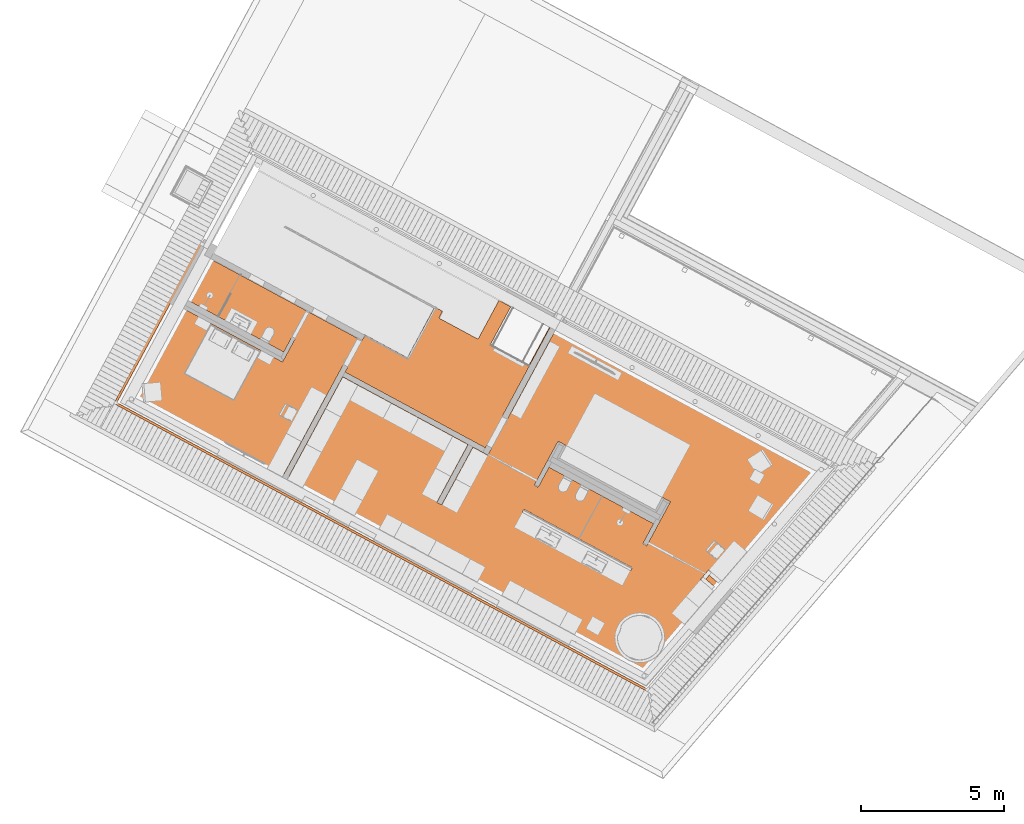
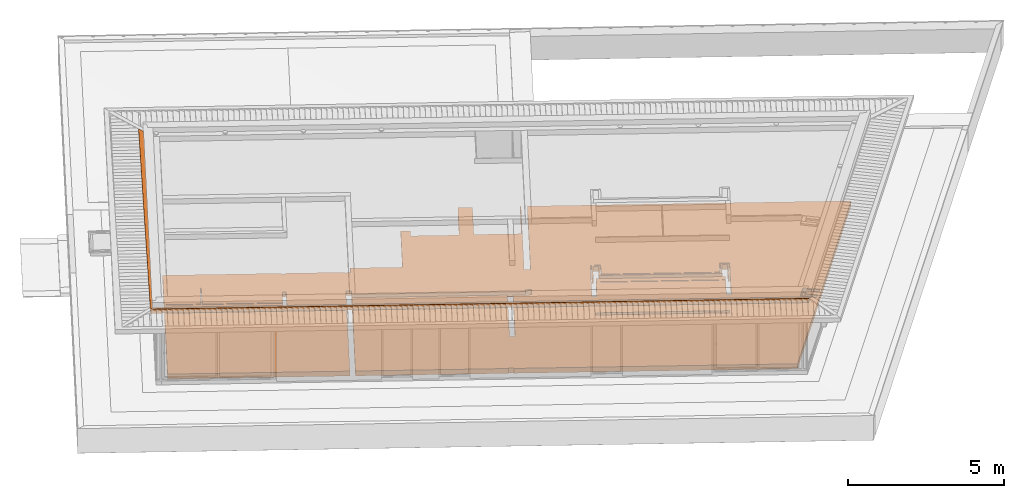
# One storey, part 41 of 48: 2 proxies.
"""IFC2X3 building model written with IfcOpenShell, lengths in metres."""

from ifc_helpers import new_model, entity, si_unit, converted_unit, derived_unit, money_unit, direction, frame, origin_with_axes, place, context, subcontext, project, spatial, faceted_brep, material, material_list, type_object, element, save


model = new_model("IFC2X3")

# Units and contexts
model_context = context("Model", 3, precision=1e-05, world=origin_with_axes(), true_north=direction((0.0, 1.0)))
body_context = subcontext(model_context, "Body", "Model", "MODEL_VIEW")
ifc_project = project(units=[si_unit("LENGTHUNIT", "METRE"), si_unit("AREAUNIT", "SQUARE_METRE"), si_unit("VOLUMEUNIT", "CUBIC_METRE"), converted_unit("PLANEANGLEUNIT", "DEGREE", entity("IfcPlaneAngleMeasure", 0.0174532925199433), si_unit("PLANEANGLEUNIT", "RADIAN"), dimensions=[0, 0, 0, 0, 0, 0, 0]), money_unit("EUR"), converted_unit("TIMEUNIT", "Year", entity("IfcTimeMeasure", 31556926.0), si_unit("TIMEUNIT", "SECOND"), dimensions=[0, 0, 1, 0, 0, 0, 0]), si_unit("MASSUNIT", "GRAM", prefix="KILO"), si_unit("THERMODYNAMICTEMPERATUREUNIT", "DEGREE_CELSIUS"), si_unit("LUMINOUSINTENSITYUNIT", "LUMEN"), si_unit("ENERGYUNIT", "JOULE", prefix="MEGA"), derived_unit("THERMALCONDUCTANCEUNIT", [(si_unit("POWERUNIT", "WATT"), 1), (si_unit("LENGTHUNIT", "METRE"), -1), (si_unit("THERMODYNAMICTEMPERATUREUNIT", "KELVIN"), -1)]), derived_unit("SPECIFICHEATCAPACITYUNIT", [(si_unit("ENERGYUNIT", "JOULE"), 1), (si_unit("MASSUNIT", "GRAM", prefix="KILO"), -1), (si_unit("THERMODYNAMICTEMPERATUREUNIT", "KELVIN"), -1)]), derived_unit("MASSDENSITYUNIT", [(si_unit("MASSUNIT", "GRAM", prefix="KILO"), 1), (si_unit("VOLUMEUNIT", "CUBIC_METRE"), -1)])], contexts=[model_context])

# Site, building, storey
site_placement = place(None, frame((-3.949935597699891, 1.740105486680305, 0.0), z_axis=(0.0, 0.0, 1.0), x_axis=(0.8799804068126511, -0.475009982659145, 0.0)))
site = spatial("IfcSite", under=ifc_project, at=site_placement, Name="Gelände", CompositionType="ELEMENT")
building_placement = place(site_placement, origin_with_axes())
building = spatial("IfcBuilding", under=site, at=building_placement, Name="Gebäude", CompositionType="ELEMENT")
storey_placement = place(building_placement, frame((0.0, 0.0, 4.55), z_axis=(0.0, 0.0, 1.0), x_axis=(1.0, 0.0, 0.0)))
storey = spatial("IfcBuildingStorey", under=building, at=storey_placement, Name="Staffelgeschoss", CompositionType="ELEMENT", Elevation=4.55)

# Proxies
ifc_material_1 = material(Name="ALLGEMEIN - BAUTEIL")
building_element_proxy_type_1 = type_object("IfcBuildingElementProxyType", Name="_SIWH - BO | SG 190", PredefinedType="NOTDEFINED")
proxy_1_placement = place(storey_placement, frame((5.597480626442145, 7.138059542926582, 0.0), z_axis=(0.0, 0.0, 1.0), x_axis=(1.0, 0.0, 0.0)))
element("IfcBuildingElementProxy", 1, at=proxy_1_placement, inside=storey, type_object=building_element_proxy_type_1, material=ifc_material_1, Name="Decke005", context=body_context, shape_type="Brep", body=[
    faceted_brep([(11.57001273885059, 3.519741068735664, 0.0), (11.54000518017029, 3.519741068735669, 0.0), (11.54000518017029, 1.999739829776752, 0.0), (11.57001273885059, 1.999739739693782, 0.0), (11.57001273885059, 3.519741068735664, -0.1899999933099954), (11.54000518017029, 3.519741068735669, -0.1900000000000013), (11.54000518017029, 1.98974111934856, -0.1900000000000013), (11.54000518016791, 1.989739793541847, -0.1500000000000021), (11.54000518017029, 1.999739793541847, -0.1500000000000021), (11.57001273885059, 1.999739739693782, -0.1500000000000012), (11.57001273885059, 1.989739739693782, -0.1500000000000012), (11.57001273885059, 1.989739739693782, 0.0), (11.57001273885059, -0.005020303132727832, 0.0), (11.57001273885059, -0.005020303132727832, -0.1899999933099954), (11.77001273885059, -0.005020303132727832, -0.1899999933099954), (11.77001273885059, 3.519741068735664, -0.1899999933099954), (22.13045410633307, 3.519741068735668, -0.1900000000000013), (20.15761155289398, -5.513072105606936, -0.1900000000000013), (11.0900251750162, -5.51306648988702, -0.1899999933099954), (11.0900251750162, -5.491029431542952, -0.1899999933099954), (10.9150251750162, -5.491029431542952, -0.1899999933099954), (10.9150251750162, -5.51306648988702, -0.1899999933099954), (6.010714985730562, -5.513072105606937, -0.1900000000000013), (6.010714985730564, -1.419998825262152, -0.1900000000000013), (10.99601425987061, -1.419998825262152, -0.1900000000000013), (10.99601425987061, -3.719998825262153, -0.1900000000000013), (11.17101425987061, -3.719998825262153, -0.1900000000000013), (11.17101425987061, -1.419998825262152, -0.1900000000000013), (11.57001273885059, -1.419998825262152, -0.1899999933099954), (11.77001273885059, -1.419998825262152, -0.1899999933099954), (11.77001273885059, -1.140020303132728, -0.1899999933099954), (11.57001273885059, -1.140020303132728, -0.1899999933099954), (11.57001273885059, -1.244998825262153, -0.1899999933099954), (6.010714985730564, -1.244998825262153, -0.1900000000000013), (6.010714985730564, -1.036997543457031, -0.1900000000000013), (5.835714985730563, -1.036997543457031, -0.1900000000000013), (5.835714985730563, -5.513072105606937, -0.1900000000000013), (0.0, -5.513071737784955, -0.1900000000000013), (0.0, -1.969998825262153, -0.1899999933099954), (3.925414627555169, -1.969998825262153, -0.1899999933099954), (3.925414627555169, -1.957498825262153, -0.1899999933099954), (3.925414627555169, -1.036997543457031, -0.1899999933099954), (3.800414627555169, -1.036997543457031, -0.1899999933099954), (3.800414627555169, -1.645022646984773, -0.1899999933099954), (1.214999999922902, -1.645006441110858, -0.1899999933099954), (1.215, -0.7450238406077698, -0.1900000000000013), (1.184999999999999, -0.7450238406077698, -0.1900000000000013), (1.184999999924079, -1.645006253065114, -0.1899999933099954), (1.253638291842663e-06, -1.644998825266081, -0.1899999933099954), (0.0, 0.0, -0.1900000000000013), (3.800414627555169, -3.061704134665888e-08, -0.1899999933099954), (3.800414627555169, -0.02699754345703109, -0.1899999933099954), (3.925414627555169, -0.02699754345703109, -0.1899999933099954), (3.925414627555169, -3.162407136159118e-08, -0.1899999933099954), (5.835714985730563, -4.701390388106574e-08, -0.1900000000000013), (5.835714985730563, -0.02699754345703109, -0.1900000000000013), (6.010714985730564, -0.02699754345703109, -0.1900000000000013), (6.010714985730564, 0.01497615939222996, -0.1899999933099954), (6.010714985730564, 0.2149761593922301, -0.1899999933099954), (5.996714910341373, 0.2149761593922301, -0.1899999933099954), (5.996714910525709, 0.2300000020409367, -0.1900000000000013), (7.682527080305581, 0.229999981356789, -0.1900000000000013), (7.682532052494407, 2.239735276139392, -0.1900000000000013), (7.995010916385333, 2.239734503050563, -0.1900000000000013), (7.995011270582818, 1.969735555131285, -0.1900000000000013), (9.54693234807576, 1.969739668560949, -0.1900000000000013), (9.546936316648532, 3.504742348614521, -0.1900000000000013), (10.01632630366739, 3.50474113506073, -0.1900000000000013), (10.01632630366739, 1.989741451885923, -0.1900000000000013), (13.77193755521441, -2.490958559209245, -0.1900000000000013), (13.77193912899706, -2.610958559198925, -0.1900000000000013), (18.06459063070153, -2.610902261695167, -0.1900000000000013), (18.06458905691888, -2.490902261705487, -0.1900000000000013), (14.02005269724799, -0.3359107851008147, -0.1899999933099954), (14.02005269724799, 0.1640892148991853, -0.1899999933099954), (14.00755269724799, 0.1640892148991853, -0.1899999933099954), (13.70755269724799, 0.1640892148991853, -0.1899999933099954), (13.69505269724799, 0.1640892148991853, -0.1899999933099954), (13.69505269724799, -1.585910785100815, -0.1899999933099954), (13.84505269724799, -1.585910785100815, -0.1899999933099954), (13.84505269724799, -0.7859107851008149, -0.1899999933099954), (17.99505269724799, -0.7859107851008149, -0.1899999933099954), (17.99505269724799, -1.585910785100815, -0.1899999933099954), (18.14505269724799, -1.585910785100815, -0.1899999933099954), (18.14505269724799, 0.1515892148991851, -0.1899999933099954), (18.14505269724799, 0.1640892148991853, -0.1899999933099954), (17.83255269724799, 0.1640892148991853, -0.1899999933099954), (17.82005269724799, 0.1640892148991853, -0.1899999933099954), (17.82005269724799, -0.3359107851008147, -0.1899999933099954), (10.01632630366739, 1.989741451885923, 0.0), (11.54000518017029, 1.989739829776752, 0.0), (11.77001273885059, -0.005020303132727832, 0.0), (10.01632630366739, 3.50474113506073, 0.0), (9.546936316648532, 3.504742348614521, 0.0), (9.54693234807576, 1.969739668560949, 0.0), (7.995011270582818, 1.969735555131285, 0.0), (7.995010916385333, 2.239734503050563, 0.0), (7.682532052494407, 2.239735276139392, 0.0), (7.682527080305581, 0.229999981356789, 0.0), (5.996714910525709, 0.2300000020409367, 0.0), (5.996714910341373, 0.2149761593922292, 0.0), (6.010714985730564, 0.2149761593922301, 0.0), (6.010714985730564, 0.01497615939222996, 0.0), (6.010714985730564, -0.02699754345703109, 0.0), (5.835714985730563, -0.02699754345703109, 0.0), (5.835714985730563, -4.701390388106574e-08, 0.0), (3.925414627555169, -3.162407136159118e-08, 0.0), (3.925414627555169, -0.02699754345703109, 0.0), (3.800414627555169, -0.02699754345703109, 0.0), (3.800414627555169, -3.061704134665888e-08, 0.0), (0.0, 0.0, 0.0), (1.253638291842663e-06, -1.644998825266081, 0.0), (1.184999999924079, -1.645006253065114, 0.0), (1.184999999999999, -0.7450238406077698, 0.0), (1.215, -0.7450238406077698, 0.0), (1.214999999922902, -1.645006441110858, 0.0), (3.800414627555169, -1.645022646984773, 0.0), (3.800414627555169, -1.036997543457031, 0.0), (3.925414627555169, -1.036997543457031, 0.0), (3.925414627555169, -1.957498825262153, 0.0), (3.925414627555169, -1.969998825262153, 0.0), (0.0, -1.969998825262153, 0.0), (0.0, -5.513071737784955, 0.0), (5.835714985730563, -5.513072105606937, 0.0), (5.835714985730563, -1.036997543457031, 0.0), (6.010714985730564, -1.036997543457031, 0.0), (6.010714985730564, -1.244998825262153, 0.0), (11.57001273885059, -1.244998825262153, 0.0), (11.57001273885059, -1.140020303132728, 0.0), (11.77001273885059, -1.140020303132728, 0.0), (11.77001273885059, -1.419998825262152, 0.0), (11.57001273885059, -1.419998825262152, 0.0), (11.17101425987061, -1.419998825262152, 0.0), (11.17101425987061, -3.719998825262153, 0.0), (10.99601425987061, -3.719998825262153, 0.0), (10.99601425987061, -1.419998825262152, 0.0), (6.010714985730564, -1.419998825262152, 0.0), (6.010714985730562, -5.513072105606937, 0.0), (10.9150251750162, -5.51306648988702, 0.0), (10.9150251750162, -5.491029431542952, 0.0), (11.0900251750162, -5.491029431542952, 0.0), (11.0900251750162, -5.51306648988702, 0.0), (20.15761155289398, -5.513072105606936, 0.0), (22.13045410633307, 3.519741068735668, 0.0), (11.77001273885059, 3.519741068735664, 0.0), (18.06459063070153, -2.610902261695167, 0.0), (13.77193912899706, -2.610958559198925, 0.0), (13.77193755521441, -2.490958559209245, 0.0), (18.06458905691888, -2.490902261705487, 0.0), (14.00755269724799, 0.1640892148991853, 0.0), (14.02005269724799, 0.1640892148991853, 0.0), (14.02005269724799, -0.3359107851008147, 0.0), (17.82005269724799, -0.3359107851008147, 0.0), (17.82005269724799, 0.1640892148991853, 0.0), (17.83255269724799, 0.1640892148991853, 0.0), (18.14505269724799, 0.1640892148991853, 0.0), (18.14505269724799, 0.1515892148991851, 0.0), (18.14505269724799, -1.585910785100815, 0.0), (17.99505269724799, -1.585910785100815, 0.0), (17.99505269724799, -0.7859107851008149, 0.0), (13.84505269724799, -0.7859107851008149, 0.0), (13.84505269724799, -1.585910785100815, 0.0), (13.69505269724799, -1.585910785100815, 0.0), (13.69505269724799, 0.1640892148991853, 0.0), (13.70755269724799, 0.1640892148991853, 0.0), (20.35883134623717, -1.709578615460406, 0.0), (20.45062192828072, -1.289308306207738, 0.0), (20.46527647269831, -1.292508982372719, 0.0), (20.98980951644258, -1.407071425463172, 0.0), (20.96207032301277, -1.534077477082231, 0.0), (20.54988878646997, -1.444053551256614, 0.0), (20.51037591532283, -1.624966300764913, 0.0), (20.90116374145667, -1.710317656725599, 0.0), (20.87342454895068, -1.837323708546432, 0.0), (20.35563067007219, -1.724233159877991, 0.0), (20.45062192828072, -1.289308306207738, -0.1800000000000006), (20.35883134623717, -1.709578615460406, -0.1800000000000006), (20.46527647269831, -1.292508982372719, -0.1800000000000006), (20.98980951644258, -1.407071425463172, -0.1800000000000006), (20.96207032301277, -1.534077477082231, -0.1800000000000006), (20.54988878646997, -1.444053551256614, -0.1800000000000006), (20.51037591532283, -1.624966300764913, -0.1800000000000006), (20.90116374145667, -1.710317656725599, -0.1800000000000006), (20.87342454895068, -1.837323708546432, -0.1800000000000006), (20.35563067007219, -1.724233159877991, -0.1800000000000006)], [[[0, 1, 2, 3]], [[1, 0, 4, 5]], [[6, 7, 8, 2, 1, 5]], [[2, 8, 9, 3]], [[3, 9, 10, 11, 12, 13, 4, 0]], [[6, 5, 4, 13, 14, 15, 16, 17, 18, 19, 20, 21, 22, 23, 24, 25, 26, 27, 28, 29, 30, 31, 32, 33, 34, 35, 36, 37, 38, 39, 40, 41, 42, 43, 44, 45, 46, 47, 48, 49, 50, 51, 52, 53, 54, 55, 56, 57, 58, 59, 60, 61, 62, 63, 64, 65, 66, 67, 68], [69, 70, 71, 72], [73, 74, 75, 76, 77, 78, 79, 80, 81, 82, 83, 84, 85, 86, 87, 88]], [[68, 89, 90, 7, 6]], [[8, 7, 10, 9]], [[10, 7, 90, 11]], [[91, 12, 11, 90, 89, 92, 93, 94, 95, 96, 97, 98, 99, 100, 101, 102, 103, 104, 105, 106, 107, 108, 109, 110, 111, 112, 113, 114, 115, 116, 117, 118, 119, 120, 121, 122, 123, 124, 125, 126, 127, 128, 129, 130, 131, 132, 133, 134, 135, 136, 137, 138, 139, 140, 141, 142, 143, 144], [145, 146, 147, 148], [149, 150, 151, 152, 153, 154, 155, 156, 157, 158, 159, 160, 161, 162, 163, 164], [165, 166, 167, 168, 169, 170, 171, 172, 173, 174]], [[13, 12, 91, 14]], [[14, 91, 144, 15]], [[16, 15, 144, 143]], [[16, 143, 142, 17]], [[17, 142, 141, 18]], [[19, 18, 141, 140]], [[20, 19, 140, 139]], [[21, 20, 139, 138]], [[137, 22, 21, 138]], [[22, 137, 136, 23]], [[24, 23, 136, 135]], [[134, 25, 24, 135]], [[26, 25, 134, 133]], [[26, 133, 132, 27]], [[131, 28, 27, 132]], [[131, 130, 29, 28]], [[130, 129, 30, 29]], [[129, 128, 31, 30]], [[128, 127, 32, 31]], [[32, 127, 126, 33]], [[125, 34, 33, 126]], [[124, 35, 34, 125]], [[123, 36, 35, 124]], [[123, 122, 37, 36]], [[38, 37, 122, 121]], [[120, 39, 38, 121]], [[119, 40, 39, 120]], [[119, 118, 41, 40]], [[118, 117, 42, 41]], [[117, 116, 43, 42]], [[44, 43, 116, 115]], [[45, 44, 115, 114]], [[114, 113, 46, 45]], [[113, 112, 47, 46]], [[48, 47, 112, 111]], [[49, 48, 111, 110]], [[50, 49, 110, 109]], [[109, 108, 51, 50]], [[51, 108, 107, 52]], [[106, 53, 52, 107]], [[106, 105, 54, 53]], [[54, 105, 104, 55]], [[104, 103, 56, 55]], [[57, 56, 103, 102]], [[101, 58, 57, 102]], [[100, 59, 58, 101]], [[100, 99, 60, 59]], [[99, 98, 61, 60]], [[98, 97, 62, 61]], [[97, 96, 63, 62]], [[96, 95, 64, 63]], [[95, 94, 65, 64]], [[94, 93, 66, 65]], [[93, 92, 67, 66]], [[92, 89, 68, 67]], [[69, 147, 146, 70]], [[70, 146, 145, 71]], [[71, 145, 148, 72]], [[72, 148, 147, 69]], [[74, 73, 151, 150]], [[75, 74, 150, 149]], [[149, 164, 76, 75]], [[164, 163, 77, 76]], [[163, 162, 78, 77]], [[78, 162, 161, 79]], [[161, 160, 80, 79]], [[160, 159, 81, 80]], [[82, 81, 159, 158]], [[157, 83, 82, 158]], [[156, 84, 83, 157]], [[156, 155, 85, 84]], [[85, 155, 154, 86]], [[87, 86, 154, 153]], [[152, 88, 87, 153]], [[152, 151, 73, 88]], [[175, 166, 165, 176]], [[167, 166, 175, 177]], [[167, 177, 178, 168]], [[178, 179, 169, 168]], [[170, 169, 179, 180]], [[170, 180, 181, 171]], [[182, 172, 171, 181]], [[183, 173, 172, 182]], [[173, 183, 184, 174]], [[184, 176, 165, 174]], [[180, 179, 178, 177, 175, 176, 184, 183, 182, 181]]]),
    faceted_brep([(3.800414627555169, -1.844998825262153, -0.1899999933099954), (3.800414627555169, -1.670022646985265, -0.1899999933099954), (3.800414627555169, -1.670022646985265, 0.0), (3.800414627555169, -1.844998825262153, 0.0), (0.0, -1.844998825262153, -0.1899999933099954), (1.096933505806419e-06, -1.66999882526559, -0.1899999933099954), (1.096933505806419e-06, -1.66999882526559, 0.0), (0.0, -1.844998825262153, 0.0)], [[[0, 1, 2, 3]], [[4, 5, 1, 0]], [[5, 6, 2, 1]], [[3, 2, 6, 7]], [[3, 7, 4, 0]], [[7, 6, 5, 4]]]),
    faceted_brep([(13.84505269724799, -0.7609107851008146, 0.0), (17.99505269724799, -0.7609107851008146, 0.0), (17.99505269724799, -0.5859107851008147, 0.0), (13.84505269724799, -0.5859107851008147, 0.0), (13.84505269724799, -0.7609107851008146, -0.1899999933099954), (17.99505269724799, -0.7609107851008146, -0.1899999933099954), (17.99505269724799, -0.5859107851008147, -0.1899999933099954), (13.84505269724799, -0.5859107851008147, -0.1899999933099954)], [[[0, 1, 2, 3]], [[4, 5, 1, 0]], [[5, 6, 2, 1]], [[3, 2, 6, 7]], [[0, 3, 7, 4]], [[7, 6, 5, 4]]]),
    faceted_brep([(18.07005269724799, -0.4109107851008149, 0.0), (18.07005269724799, -0.5859107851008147, 0.0), (18.12005269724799, -0.5859107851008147, 0.0), (18.12005269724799, 0.1390892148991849, 0.0), (17.84505269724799, 0.1390892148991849, 0.0), (17.84505269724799, -0.3484107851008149, 0.0), (17.84505269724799, -0.3609107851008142, 0.0), (14.00755269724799, -0.3609107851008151, 0.0), (13.99505269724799, -0.3609107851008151, 0.0), (13.99505269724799, 0.1390892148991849, 0.0), (13.72005269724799, 0.1390892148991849, 0.0), (13.72005269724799, -0.5859107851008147, 0.0), (13.77005269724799, -0.5859107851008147, 0.0), (13.77005269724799, -0.4109107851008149, 0.0), (13.77005269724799, 0.08908921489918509, 0.0), (13.94505269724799, 0.08908921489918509, 0.0), (13.94505269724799, -0.4109107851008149, 0.0), (17.89505269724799, -0.4109107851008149, 0.0), (17.89505269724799, 0.08908921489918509, 0.0), (18.07005269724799, 0.08908921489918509, 0.0), (18.07005269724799, -0.4109107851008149, -0.1900000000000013), (18.07005269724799, -0.5859107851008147, -0.1899999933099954), (18.12005269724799, -0.5859107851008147, -0.1899999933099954), (18.12005269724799, 0.1390892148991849, -0.1899999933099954), (17.84505269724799, 0.1390892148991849, -0.1899999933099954), (17.84505269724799, -0.3484107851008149, -0.1899999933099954), (17.84505269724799, -0.3609107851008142, -0.1899999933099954), (14.00755269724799, -0.3609107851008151, -0.1899999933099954), (13.99505269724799, -0.3609107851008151, -0.1899999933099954), (13.99505269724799, 0.1390892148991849, -0.1899999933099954), (13.72005269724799, 0.1390892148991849, -0.1899999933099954), (13.72005269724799, -0.5859107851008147, -0.1899999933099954), (13.77005269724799, -0.5859107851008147, -0.1899999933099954), (13.77005269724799, -0.4109107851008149, -0.1900000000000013), (13.77005269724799, 0.08908921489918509, -0.1900000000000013), (13.94505269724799, 0.08908921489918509, -0.1900000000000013), (13.94505269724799, -0.4109107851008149, -0.1900000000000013), (17.89505269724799, -0.4109107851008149, -0.1900000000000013), (17.89505269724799, 0.08908921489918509, -0.1900000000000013), (18.07005269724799, 0.08908921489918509, -0.1900000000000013)], [[[0, 1, 2, 3, 4, 5, 6, 7, 8, 9, 10, 11, 12, 13, 14, 15, 16, 17, 18, 19]], [[20, 21, 1, 0]], [[21, 22, 2, 1]], [[3, 2, 22, 23]], [[3, 23, 24, 4]], [[25, 5, 4, 24]], [[5, 25, 26, 6]], [[26, 27, 7, 6]], [[28, 8, 7, 27]], [[29, 9, 8, 28]], [[10, 9, 29, 30]], [[10, 30, 31, 11]], [[11, 31, 32, 12]], [[12, 32, 33, 13]], [[14, 13, 33, 34]], [[15, 14, 34, 35]], [[16, 15, 35, 36]], [[17, 16, 36, 37]], [[17, 37, 38, 18]], [[18, 38, 39, 19]], [[19, 39, 20, 0]], [[23, 22, 21, 20, 39, 38, 37, 36, 35, 34, 33, 32, 31, 30, 29, 28, 27, 26, 25, 24]]]),
])
ifc_material_2 = material(Name="Beton, Leichtbeton")
ifc_material_3 = material(Name="Kleber")
ifc_material_4 = material(Name="Estrich")
ifc_material_5 = material(Name="Dämmung, hart EPS")
ifc_material_list = material_list([ifc_material_2, ifc_material_3, ifc_material_4, ifc_material_5])
building_element_proxy_type_2 = type_object("IfcBuildingElementProxyType", Name="BO | Dämmung 8+Folie+Estrich 7+Fliese 0,5 | 16cm 170", PredefinedType="NOTDEFINED")
proxy_2_placement = place(storey_placement, frame((5.112481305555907, 10.99063903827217, 2.75), z_axis=(0.0, 0.0, 1.0), x_axis=(1.0, 0.0, 0.0)))
element("IfcBuildingElementProxy", 2, at=proxy_2_placement, inside=storey, type_object=building_element_proxy_type_2, material=ifc_material_list, Name="Decke057", context=body_context, shape_type="Brep", body=[
    faceted_brep([(0.0, 0.0, 0.1600000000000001), (-0.1690514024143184, 0.1690514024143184, 0.1600000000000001), (-0.1690514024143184, 0.1690514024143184, 0.1699999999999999), (0.0, 0.0, 0.1699999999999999), (0.0, -9.810638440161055, 0.1600000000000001), (21.00093162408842, -9.810639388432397, 0.1600000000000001), (21.00093162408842, -9.89371415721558, 0.1600000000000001), (-0.07769496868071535, -9.893713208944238, 0.1600000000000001), (-0.07769496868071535, -9.893713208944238, 0.1699999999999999), (0.0, -9.810638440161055, 0.1699999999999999), (21.00093162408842, -9.89371415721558, 0.1699999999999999), (21.00093162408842, -9.810639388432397, 0.1699999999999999)], [[[0, 1, 2, 3]], [[1, 0, 4, 5, 6, 7]], [[1, 7, 8, 2]], [[9, 3, 2, 8, 10, 11]], [[4, 0, 3, 9]], [[5, 4, 9, 11]], [[6, 5, 11, 10]], [[7, 6, 10, 8]]]),
    faceted_brep([(0.0, 0.0, 0.1500000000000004), (-0.1690514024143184, 0.1690514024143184, 0.1500000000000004), (-0.1690514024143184, 0.1690514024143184, 0.1600000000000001), (0.0, 0.0, 0.1600000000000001), (0.0, -9.810638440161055, 0.1500000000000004), (21.00093162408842, -9.810639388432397, 0.1500000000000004), (21.00093162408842, -9.89371415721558, 0.1500000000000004), (-0.07769496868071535, -9.893713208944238, 0.1500000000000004), (-0.07769496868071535, -9.893713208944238, 0.1600000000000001), (0.0, -9.810638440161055, 0.1600000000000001), (21.00093162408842, -9.89371415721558, 0.1600000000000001), (21.00093162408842, -9.810639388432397, 0.1600000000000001)], [[[0, 1, 2, 3]], [[1, 0, 4, 5, 6, 7]], [[1, 7, 8, 2]], [[9, 3, 2, 8, 10, 11]], [[4, 0, 3, 9]], [[5, 4, 9, 11]], [[6, 5, 11, 10]], [[7, 6, 10, 8]]]),
    faceted_brep([(0.0, 0.0, 0.08000000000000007), (-0.1690514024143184, 0.1690514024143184, 0.08000000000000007), (-0.1690514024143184, 0.1690514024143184, 0.1500000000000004), (0.0, 0.0, 0.1500000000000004), (0.0, -9.810638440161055, 0.08000000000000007), (21.00093162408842, -9.810639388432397, 0.08000000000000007), (21.00093162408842, -9.89371415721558, 0.08000000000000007), (-0.07769496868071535, -9.893713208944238, 0.08000000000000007), (-0.07769496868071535, -9.893713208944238, 0.1500000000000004), (0.0, -9.810638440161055, 0.1500000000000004), (21.00093162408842, -9.89371415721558, 0.1500000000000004), (21.00093162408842, -9.810639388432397, 0.1500000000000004)], [[[0, 1, 2, 3]], [[1, 0, 4, 5, 6, 7]], [[1, 7, 8, 2]], [[9, 3, 2, 8, 10, 11]], [[4, 0, 3, 9]], [[5, 4, 9, 11]], [[6, 5, 11, 10]], [[7, 6, 10, 8]]]),
    faceted_brep([(0.0, 0.0, 0.0), (-0.1690514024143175, 0.1690514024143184, 0.0), (-0.1690514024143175, 0.1690514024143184, 0.08000000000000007), (0.0, 0.0, 0.08000000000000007), (0.0, -9.810638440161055, 0.0), (21.00093162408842, -9.810639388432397, 0.0), (21.00093162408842, -9.89371415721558, 0.0), (-0.07769496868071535, -9.893713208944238, 0.0), (-0.07769496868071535, -9.893713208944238, 0.08000000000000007), (21.00093162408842, -9.89371415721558, 0.08000000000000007), (21.00093162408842, -9.810639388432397, 0.08000000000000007), (0.0, -9.810638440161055, 0.08000000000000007)], [[[0, 1, 2, 3]], [[0, 4, 5, 6, 7, 1]], [[1, 7, 8, 2]], [[3, 2, 8, 9, 10, 11]], [[4, 0, 3, 11]], [[5, 4, 11, 10]], [[6, 5, 10, 9]], [[7, 6, 9, 8]]]),
])

save(model, "model.ifc")
